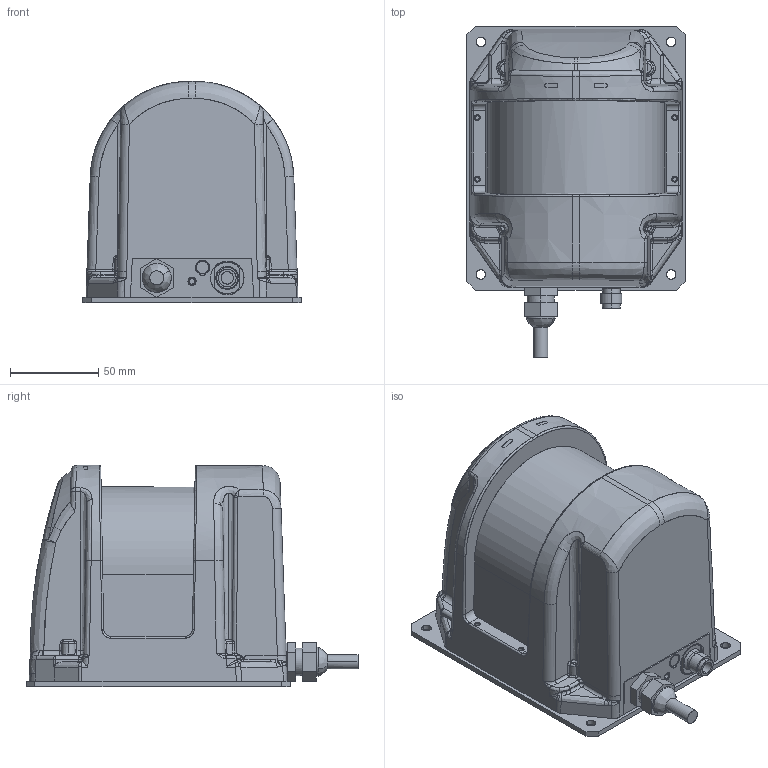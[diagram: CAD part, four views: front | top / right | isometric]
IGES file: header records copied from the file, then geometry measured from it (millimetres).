
Start section: SolidWorks IGES file using analytic representation for surfaces
Global section: file name: A:\1330 佃\データー受け渡しホルダ\UXM  3D  DATA.IGS; native system: SolidWorks 2014; preprocessor: SolidWorks 2014; author: Administrator; date: 140515.135912; units: millimetre
Bounding box: 124 x 188.42 x 125.5 mm (x, y, z)
Surface area: 94457.4 mm2 (no closed solid volume)
Topology: 0 solids, 0 shells, 550 faces, 5430 edges, 5408 vertices
Faces by surface type: bspline 351, revolution 199
